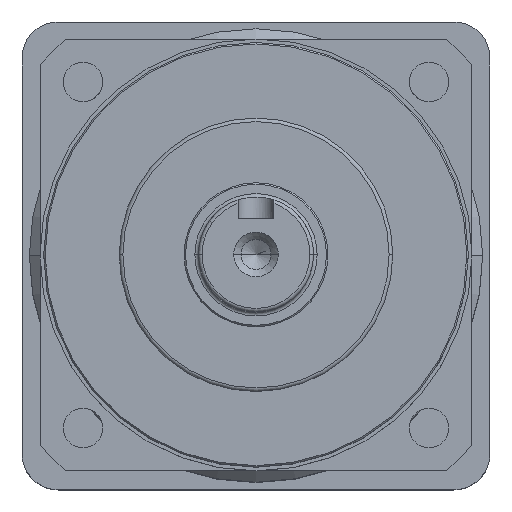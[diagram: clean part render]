
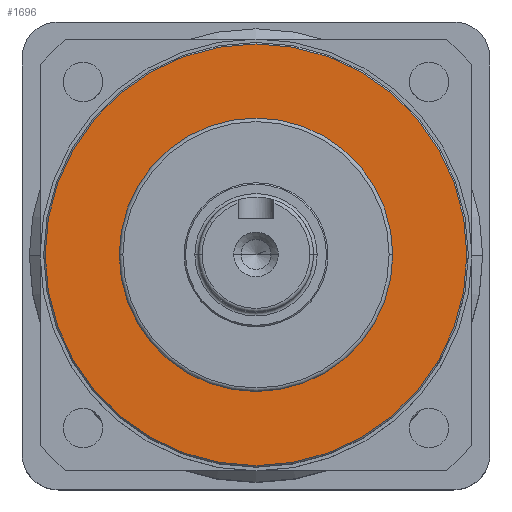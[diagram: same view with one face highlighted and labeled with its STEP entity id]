
A CAD part, top view. The second image highlights one B-rep face of the part: STEP entity #1696.
In plain terms, the highlighted planar face has unit normal (0, 0, 1).
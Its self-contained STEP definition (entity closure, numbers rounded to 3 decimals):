
#164 = ORIENTED_EDGE ( 'NONE', *, *, #2801, .T. ) ;
#298 = EDGE_LOOP ( 'NONE', ( #2626, #164 ) ) ;
#395 = DIRECTION ( 'NONE',  ( 1., 0., 0. ) ) ;
#487 = EDGE_CURVE ( 'NONE', #2800, #2583, #1289, .T. ) ;
#489 = VERTEX_POINT ( 'NONE', #2968 ) ;
#757 = DIRECTION ( 'NONE',  ( 0., 0., 1. ) ) ;
#847 = CARTESIAN_POINT ( 'NONE',  ( 0., 0., 24. ) ) ;
#919 = DIRECTION ( 'NONE',  ( 0., 0., 1. ) ) ;
#957 = AXIS2_PLACEMENT_3D ( 'NONE', #2956, #1944, #2511 ) ;
#979 = DIRECTION ( 'NONE',  ( 0., 0., 1. ) ) ;
#1003 = DIRECTION ( 'NONE',  ( 1., 0., 0. ) ) ;
#1047 = AXIS2_PLACEMENT_3D ( 'NONE', #847, #979, #1003 ) ;
#1093 = AXIS2_PLACEMENT_3D ( 'NONE', #3397, #757, #3131 ) ;
#1130 = CIRCLE ( 'NONE', #1276, 29.3 ) ;
#1239 = EDGE_CURVE ( 'NONE', #2583, #2800, #1442, .T. ) ;
#1276 = AXIS2_PLACEMENT_3D ( 'NONE', #2190, #919, #395 ) ;
#1289 = CIRCLE ( 'NONE', #957, 19. ) ;
#1354 = VERTEX_POINT ( 'NONE', #2745 ) ;
#1415 = CARTESIAN_POINT ( 'NONE',  ( -19., 0., 24. ) ) ;
#1442 = CIRCLE ( 'NONE', #1478, 19. ) ;
#1478 = AXIS2_PLACEMENT_3D ( 'NONE', #3266, #2733, #1670 ) ;
#1512 = FACE_BOUND ( 'NONE', #2025, .T. ) ;
#1562 = EDGE_CURVE ( 'NONE', #489, #1354, #3188, .T. ) ;
#1670 = DIRECTION ( 'NONE',  ( 1., 0., 0. ) ) ;
#1696 = ADVANCED_FACE ( 'NONE', ( #1512, #3389 ), #3184, .T. ) ;
#1944 = DIRECTION ( 'NONE',  ( 0., 0., 1. ) ) ;
#1985 = CARTESIAN_POINT ( 'NONE',  ( 19., 0., 24. ) ) ;
#2025 = EDGE_LOOP ( 'NONE', ( #2544, #3207 ) ) ;
#2190 = CARTESIAN_POINT ( 'NONE',  ( 0., 0., 24. ) ) ;
#2511 = DIRECTION ( 'NONE',  ( 1., 0., 0. ) ) ;
#2544 = ORIENTED_EDGE ( 'NONE', *, *, #487, .F. ) ;
#2583 = VERTEX_POINT ( 'NONE', #1985 ) ;
#2626 = ORIENTED_EDGE ( 'NONE', *, *, #1562, .T. ) ;
#2733 = DIRECTION ( 'NONE',  ( 0., 0., 1. ) ) ;
#2745 = CARTESIAN_POINT ( 'NONE',  ( 29.3, 0., 24. ) ) ;
#2800 = VERTEX_POINT ( 'NONE', #1415 ) ;
#2801 = EDGE_CURVE ( 'NONE', #1354, #489, #1130, .T. ) ;
#2956 = CARTESIAN_POINT ( 'NONE',  ( 0., 0., 24. ) ) ;
#2968 = CARTESIAN_POINT ( 'NONE',  ( -29.3, 0., 24. ) ) ;
#3131 = DIRECTION ( 'NONE',  ( 1., 0., 0. ) ) ;
#3184 = PLANE ( 'NONE',  #1047 ) ;
#3188 = CIRCLE ( 'NONE', #1093, 29.3 ) ;
#3207 = ORIENTED_EDGE ( 'NONE', *, *, #1239, .F. ) ;
#3266 = CARTESIAN_POINT ( 'NONE',  ( 0., 0., 24. ) ) ;
#3389 = FACE_OUTER_BOUND ( 'NONE', #298, .T. ) ;
#3397 = CARTESIAN_POINT ( 'NONE',  ( 0., 0., 24. ) ) ;
